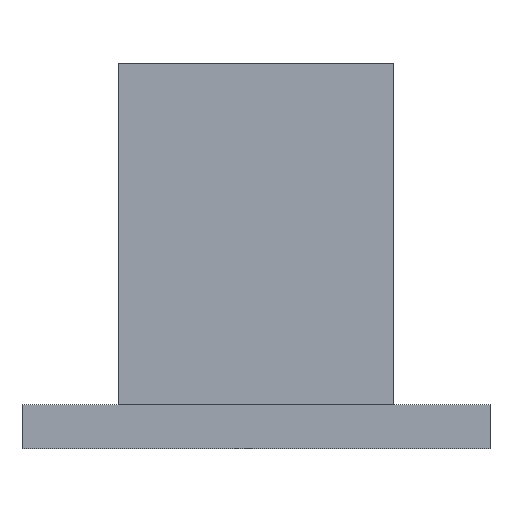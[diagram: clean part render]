
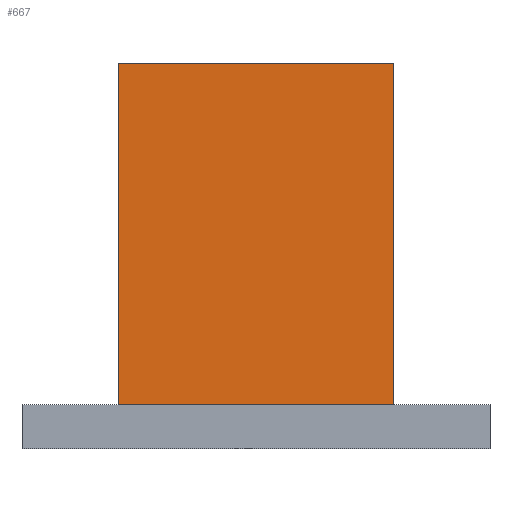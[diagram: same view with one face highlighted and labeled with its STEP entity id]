
A CAD part, front view. The second image highlights one B-rep face of the part: STEP entity #667.
In plain terms, the highlighted planar face has unit normal (0, -1, 0).
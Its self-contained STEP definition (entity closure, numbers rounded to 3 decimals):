
#144 = PLANE('',#145);
#145 = AXIS2_PLACEMENT_3D('',#146,#147,#148);
#146 = CARTESIAN_POINT('',(10.5,-32.,6.8));
#147 = DIRECTION('',(0.,0.,1.));
#148 = DIRECTION('',(1.,0.,0.));
#284 = VERTEX_POINT('',#285);
#285 = CARTESIAN_POINT('',(14.,-28.,6.8));
#301 = PLANE('',#302);
#302 = AXIS2_PLACEMENT_3D('',#303,#304,#305);
#303 = CARTESIAN_POINT('',(14.,-28.,6.8));
#304 = DIRECTION('',(1.,0.,0.));
#305 = DIRECTION('',(0.,0.,1.));
#342 = VERTEX_POINT('',#343);
#343 = CARTESIAN_POINT('',(24.,-28.,6.8));
#357 = PLANE('',#358);
#358 = AXIS2_PLACEMENT_3D('',#359,#360,#361);
#359 = CARTESIAN_POINT('',(24.,-28.,6.8));
#360 = DIRECTION('',(1.,0.,0.));
#361 = DIRECTION('',(0.,0.,1.));
#369 = EDGE_CURVE('',#284,#342,#370,.T.);
#370 = SURFACE_CURVE('',#371,(#375,#382),.PCURVE_S1.);
#371 = LINE('',#372,#373);
#372 = CARTESIAN_POINT('',(14.,-28.,6.8));
#373 = VECTOR('',#374,1.);
#374 = DIRECTION('',(1.,0.,0.));
#375 = PCURVE('',#144,#376);
#376 = DEFINITIONAL_REPRESENTATION('',(#377),#381);
#377 = LINE('',#378,#379);
#378 = CARTESIAN_POINT('',(3.5,4.));
#379 = VECTOR('',#380,1.);
#380 = DIRECTION('',(1.,0.));
#381 = ( GEOMETRIC_REPRESENTATION_CONTEXT(2) 
PARAMETRIC_REPRESENTATION_CONTEXT() REPRESENTATION_CONTEXT('2D SPACE',''
  ) );
#382 = PCURVE('',#383,#388);
#383 = PLANE('',#384);
#384 = AXIS2_PLACEMENT_3D('',#385,#386,#387);
#385 = CARTESIAN_POINT('',(14.,-28.,6.8));
#386 = DIRECTION('',(0.,1.,0.));
#387 = DIRECTION('',(0.,0.,1.));
#388 = DEFINITIONAL_REPRESENTATION('',(#389),#393);
#389 = LINE('',#390,#391);
#390 = CARTESIAN_POINT('',(0.,0.));
#391 = VECTOR('',#392,1.);
#392 = DIRECTION('',(0.,1.));
#393 = ( GEOMETRIC_REPRESENTATION_CONTEXT(2) 
PARAMETRIC_REPRESENTATION_CONTEXT() REPRESENTATION_CONTEXT('2D SPACE',''
  ) );
#595 = EDGE_CURVE('',#284,#596,#598,.T.);
#596 = VERTEX_POINT('',#597);
#597 = CARTESIAN_POINT('',(14.,-28.,19.2));
#598 = SURFACE_CURVE('',#599,(#603,#610),.PCURVE_S1.);
#599 = LINE('',#600,#601);
#600 = CARTESIAN_POINT('',(14.,-28.,6.8));
#601 = VECTOR('',#602,1.);
#602 = DIRECTION('',(0.,0.,1.));
#603 = PCURVE('',#301,#604);
#604 = DEFINITIONAL_REPRESENTATION('',(#605),#609);
#605 = LINE('',#606,#607);
#606 = CARTESIAN_POINT('',(0.,0.));
#607 = VECTOR('',#608,1.);
#608 = DIRECTION('',(1.,0.));
#609 = ( GEOMETRIC_REPRESENTATION_CONTEXT(2) 
PARAMETRIC_REPRESENTATION_CONTEXT() REPRESENTATION_CONTEXT('2D SPACE',''
  ) );
#610 = PCURVE('',#383,#611);
#611 = DEFINITIONAL_REPRESENTATION('',(#612),#616);
#612 = LINE('',#613,#614);
#613 = CARTESIAN_POINT('',(0.,0.));
#614 = VECTOR('',#615,1.);
#615 = DIRECTION('',(1.,0.));
#616 = ( GEOMETRIC_REPRESENTATION_CONTEXT(2) 
PARAMETRIC_REPRESENTATION_CONTEXT() REPRESENTATION_CONTEXT('2D SPACE',''
  ) );
#656 = PLANE('',#657);
#657 = AXIS2_PLACEMENT_3D('',#658,#659,#660);
#658 = CARTESIAN_POINT('',(14.,-28.,19.2));
#659 = DIRECTION('',(0.,0.,1.));
#660 = DIRECTION('',(1.,0.,0.));
#667 = ADVANCED_FACE('',(#668),#383,.F.);
#668 = FACE_BOUND('',#669,.F.);
#669 = EDGE_LOOP('',(#670,#671,#672,#695));
#670 = ORIENTED_EDGE('',*,*,#369,.F.);
#671 = ORIENTED_EDGE('',*,*,#595,.T.);
#672 = ORIENTED_EDGE('',*,*,#673,.T.);
#673 = EDGE_CURVE('',#596,#674,#676,.T.);
#674 = VERTEX_POINT('',#675);
#675 = CARTESIAN_POINT('',(24.,-28.,19.2));
#676 = SURFACE_CURVE('',#677,(#681,#688),.PCURVE_S1.);
#677 = LINE('',#678,#679);
#678 = CARTESIAN_POINT('',(14.,-28.,19.2));
#679 = VECTOR('',#680,1.);
#680 = DIRECTION('',(1.,0.,0.));
#681 = PCURVE('',#383,#682);
#682 = DEFINITIONAL_REPRESENTATION('',(#683),#687);
#683 = LINE('',#684,#685);
#684 = CARTESIAN_POINT('',(12.4,0.));
#685 = VECTOR('',#686,1.);
#686 = DIRECTION('',(0.,1.));
#687 = ( GEOMETRIC_REPRESENTATION_CONTEXT(2) 
PARAMETRIC_REPRESENTATION_CONTEXT() REPRESENTATION_CONTEXT('2D SPACE',''
  ) );
#688 = PCURVE('',#656,#689);
#689 = DEFINITIONAL_REPRESENTATION('',(#690),#694);
#690 = LINE('',#691,#692);
#691 = CARTESIAN_POINT('',(0.,0.));
#692 = VECTOR('',#693,1.);
#693 = DIRECTION('',(1.,0.));
#694 = ( GEOMETRIC_REPRESENTATION_CONTEXT(2) 
PARAMETRIC_REPRESENTATION_CONTEXT() REPRESENTATION_CONTEXT('2D SPACE',''
  ) );
#695 = ORIENTED_EDGE('',*,*,#696,.F.);
#696 = EDGE_CURVE('',#342,#674,#697,.T.);
#697 = SURFACE_CURVE('',#698,(#702,#709),.PCURVE_S1.);
#698 = LINE('',#699,#700);
#699 = CARTESIAN_POINT('',(24.,-28.,6.8));
#700 = VECTOR('',#701,1.);
#701 = DIRECTION('',(0.,0.,1.));
#702 = PCURVE('',#383,#703);
#703 = DEFINITIONAL_REPRESENTATION('',(#704),#708);
#704 = LINE('',#705,#706);
#705 = CARTESIAN_POINT('',(0.,10.));
#706 = VECTOR('',#707,1.);
#707 = DIRECTION('',(1.,0.));
#708 = ( GEOMETRIC_REPRESENTATION_CONTEXT(2) 
PARAMETRIC_REPRESENTATION_CONTEXT() REPRESENTATION_CONTEXT('2D SPACE',''
  ) );
#709 = PCURVE('',#357,#710);
#710 = DEFINITIONAL_REPRESENTATION('',(#711),#715);
#711 = LINE('',#712,#713);
#712 = CARTESIAN_POINT('',(0.,0.));
#713 = VECTOR('',#714,1.);
#714 = DIRECTION('',(1.,0.));
#715 = ( GEOMETRIC_REPRESENTATION_CONTEXT(2) 
PARAMETRIC_REPRESENTATION_CONTEXT() REPRESENTATION_CONTEXT('2D SPACE',''
  ) );
